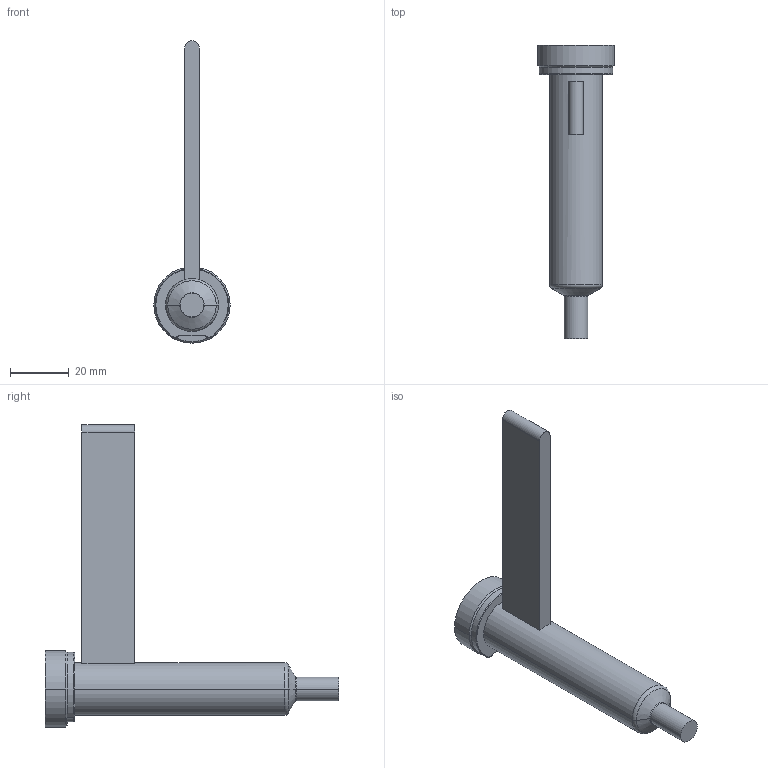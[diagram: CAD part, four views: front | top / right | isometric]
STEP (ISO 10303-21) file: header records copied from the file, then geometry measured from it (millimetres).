
FILE_DESCRIPTION((''),'2;1');
FILE_NAME('EO04_PG-FBE_STD_080_COT','2024-02-19T11:45:51',('sundharh'),(''),'CREO PARAMETRIC BY PTC INC, 2023154','CREO PARAMETRIC BY PTC INC, 2023154','');
FILE_SCHEMA(('CONFIG_CONTROL_DESIGN'));
Length unit declared in the file: millimetre
Products named in the file (1): EO04_PG-FBE_STD_080_COT
Bounding box: 26 x 100 x 103 mm (x, y, z)
Volume: 31974.1 mm3; surface area: 10021.1 mm2
Topology: 1 solids, 1 shells, 31 faces, 67 edges, 40 vertices
Faces by surface type: cylinder 11, plane 9, torus 7, cone 4
Entity records: 961 total; most frequent: CARTESIAN_POINT 228, DIRECTION 159, ORIENTED_EDGE 134, AXIS2_PLACEMENT_3D 67, EDGE_CURVE 67, VERTEX_POINT 40, CIRCLE 36, EDGE_LOOP 33
